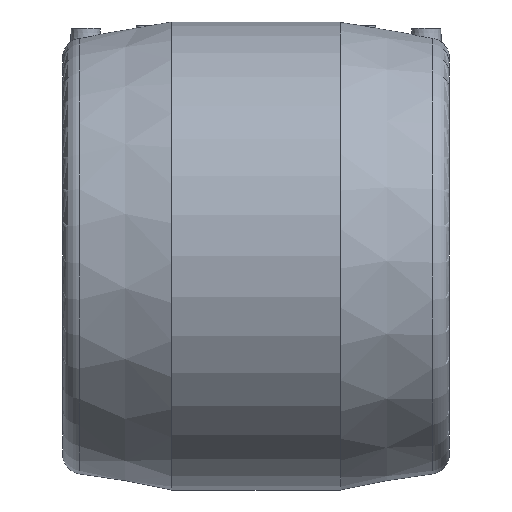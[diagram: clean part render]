
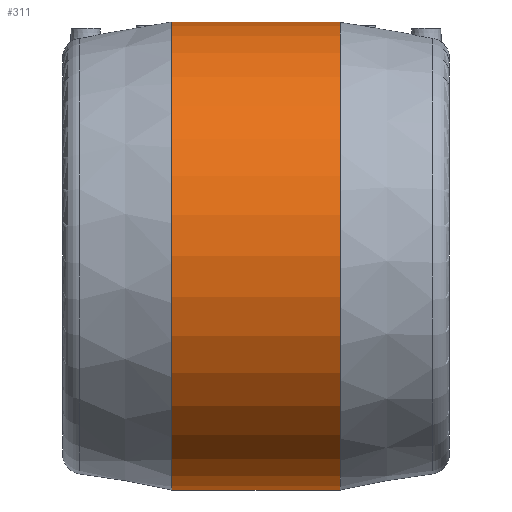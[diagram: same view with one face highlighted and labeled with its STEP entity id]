
A CAD part, front view. The second image highlights one B-rep face of the part: STEP entity #311.
In plain terms, the highlighted cylindrical face has radius 152.5 mm (diameter 305 mm), a full revolution.
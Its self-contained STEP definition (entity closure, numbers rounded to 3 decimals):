
#21=CYLINDRICAL_SURFACE('',#360,152.5);
#68=ORIENTED_EDGE('',*,*,#122,.T.);
#69=ORIENTED_EDGE('',*,*,#123,.T.);
#122=EDGE_CURVE('',#150,#150,#174,.F.);
#123=EDGE_CURVE('',#151,#151,#175,.T.);
#150=VERTEX_POINT('',#599);
#151=VERTEX_POINT('',#601);
#174=CIRCLE('',#361,152.5);
#175=CIRCLE('',#362,152.5);
#206=EDGE_LOOP('',(#68));
#207=EDGE_LOOP('',(#69));
#260=FACE_BOUND('',#206,.T.);
#261=FACE_BOUND('',#207,.T.);
#311=ADVANCED_FACE('',(#260,#261),#21,.T.);
#360=AXIS2_PLACEMENT_3D('',#597,#429,#430);
#361=AXIS2_PLACEMENT_3D('',#598,#431,#432);
#362=AXIS2_PLACEMENT_3D('',#600,#433,#434);
#429=DIRECTION('',(-1.,0.,0.));
#430=DIRECTION('',(0.,0.,1.));
#431=DIRECTION('',(1.,0.,0.));
#432=DIRECTION('',(0.,0.,-1.));
#433=DIRECTION('',(1.,0.,0.));
#434=DIRECTION('',(0.,0.,-1.));
#597=CARTESIAN_POINT('',(-60.,0.,0.));
#598=CARTESIAN_POINT('',(54.827,0.,0.));
#599=CARTESIAN_POINT('',(54.827,0.,-152.5));
#600=CARTESIAN_POINT('',(-54.827,0.,0.));
#601=CARTESIAN_POINT('',(-54.827,0.,-152.5));
